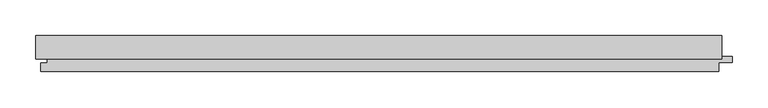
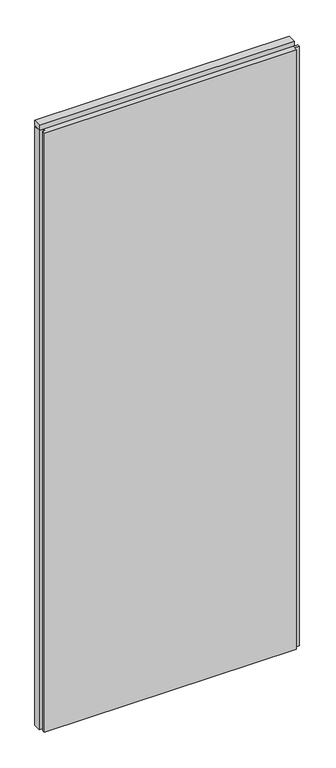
"""IFC4 building model written with IfcOpenShell, lengths in millimetres: plate geometry, Trimo_Qbiss Screen_Normal Panel-VERTICAL : HR - FB-F."""

from ifc_helpers import new_model, si_unit, frame, origin, place, context, project, spatial, polyline, outline, extrude, source, transform, mapped, element, save


def plate_d360598b(model_context):
    return source(origin(), model_context, "Body", "SweptSolid", [
        extrude(outline(polyline([(-477.0, 93.9), (-477.0, 126.0), (477.0, 126.0), (477.0, 93.9), (-477.0, 93.9)])), frame((0.0, 0.0, 2390.5), z_axis=(0.0, 0.0, 1.0), x_axis=(1.0, 0.0, 0.0)), (0.0, 0.0, 1.0), 19.0),
        extrude(outline(polyline([(473.0, 97.0), (491.5, 97.0), (491.5, 89.0), (473.0, 89.0), (473.0, 76.0), (-470.0, 76.0), (-470.0, 88.0), (-461.5, 88.0), (-461.5, 98.0), (-477.0, 98.0), (-477.0, 126.0), (473.0, 126.0), (473.0, 97.0)])), frame((0.0, 0.0, 12.5), z_axis=(0.0, 0.0, 1.0), x_axis=(1.0, 0.0, 0.0)), (0.0, 0.0, 1.0), 2375.0),
    ])


if __name__ == "__main__":
    model = new_model("IFC4")
    model_context = context("Model", 3, world=origin())
    ifc_project = project(units=[si_unit("LENGTHUNIT", "METRE", prefix="MILLI")], contexts=[model_context])
    site = spatial("IfcSite", under=ifc_project)
    building = spatial("IfcBuilding", under=site)
    placement = place(None, origin())
    plate_shape = plate_d360598b(model_context)
    element("IfcPlate", 1, ObjectType="Trimo_Qbiss Screen_Normal Panel-VERTICAL : HR - FB-F", at=placement, inside=building, context=model_context, shape_type="MappedRepresentation", body=[
        mapped(plate_shape, transform((0.0, 0.0, 0.0), x_axis=(1.0, 0.0, 0.0), y_axis=(0.0, 1.0, 0.0), z_axis=(0.0, 0.0, 1.0))),
    ])
    save(model, "model.ifc")
